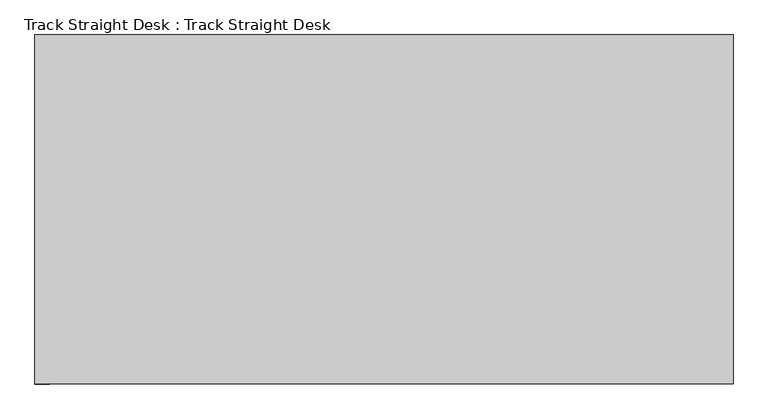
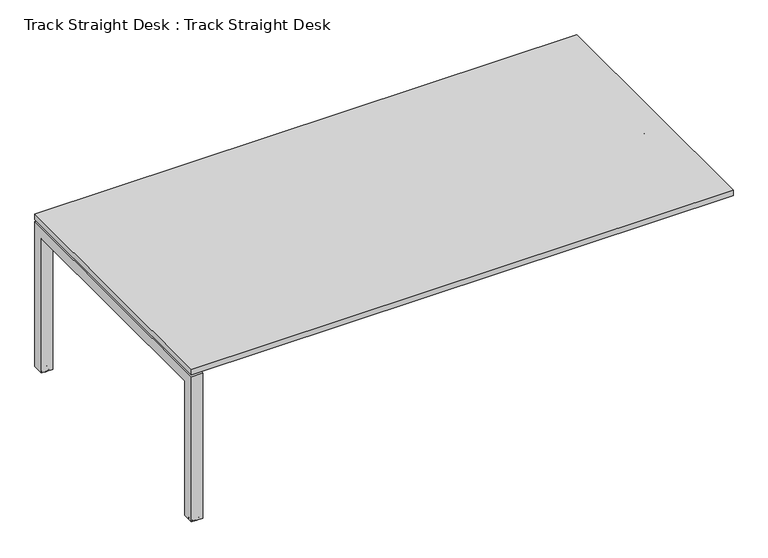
"""IFC4 building model written with IfcOpenShell, lengths in millimetres: furniture geometry, Track Straight Desk : Track Straight Desk."""

from ifc_helpers import new_model, si_unit, point, frame, frame_2d, origin, place, context, project, spatial, polyline, circle_curve, ellipse_curve, trimmed, segment, composite_curve, outline, extrude, source, transform, mapped, element, save
from ifc_brep_helpers import plane_surface, cylinder_surface, revolved_surface, advanced_brep


def track_straight_desk_track_straight_desk_033697cb(model_context):
    return source(origin(), model_context, "Body", "SolidModel", [
        extrude(outline(composite_curve([segment(polyline([(-1167.9824993, 25.0000456), (-1150.0000088, 25.0000456), (-1150.0000088, -24.9999548), (-1167.9714234, -24.9999548)]), True, "CONTINUOUS"), segment(trimmed(circle_curve(frame_2d((-1167.9714234, -22.9713684)), 2.0285864), [point((-1167.9714234, -24.9999548))], [point((-1170.0000098, -22.9713684))], False, "CARTESIAN"), True, "CONTINUOUS"), segment(polyline([(-1170.0000098, -22.9713684), (-1170.0000098, 22.9825351)]), True, "CONTINUOUS"), segment(trimmed(circle_curve(frame_2d((-1167.9824993, 22.9825351)), 2.0175105), [point((-1170.0000098, 22.9825351))], [point((-1167.9824993, 25.0000456))], False, "CARTESIAN"), True, "CONTINUOUS")], self_intersect=False), holes=[composite_curve([segment(trimmed(circle_curve(frame_2d((-1161.5000109, 4.54e-05)), 3.2500196), [point((-1164.7500305, 4.54e-05))], [point((-1158.2499912, 4.54e-05))], True, "CARTESIAN"), True, "CONTINUOUS"), segment(trimmed(circle_curve(frame_2d((-1161.5000109, 4.54e-05)), 3.2500196), [point((-1158.2499912, 4.54e-05))], [point((-1164.7500305, 4.54e-05))], True, "CARTESIAN"), True, "CONTINUOUS")], self_intersect=False)]), frame((0.0, 0.0, 685.4999983), z_axis=(0.0, 0.0, 1.0), x_axis=(1.0, 0.0, 0.0)), (0.0, 0.0, 1.0), 2.4999928),
        extrude(outline(composite_curve([segment(polyline([(687.999991, -1150.0000088), (633.0000051, -1150.0000088), (633.0000051, -1148.0414362)]), True, "CONTINUOUS"), segment(trimmed(circle_curve(frame_2d((633.5414345, -1148.0414362)), 0.5414293), [point((633.0000051, -1148.0414362))], [point((633.5414345, -1147.5000069))], False, "CARTESIAN"), True, "CONTINUOUS"), segment(polyline([(633.5414345, -1147.5000069), (687.499991, -1147.5000069)]), True, "CONTINUOUS"), segment(trimmed(circle_curve(frame_2d((687.499991, -1148.0000069)), 0.5), [point((687.499991, -1147.5000069))], [point((687.999991, -1148.0000069))], False, "CARTESIAN"), True, "CONTINUOUS"), segment(polyline([(687.999991, -1148.0000069), (687.999991, -1150.0000088)]), True, "CONTINUOUS")], self_intersect=False)), frame((0.0, -24.9999548, 0.0), z_axis=(0.0, 1.0, 0.0), x_axis=(0.0, 0.0, 1.0)), (0.0, 0.0, 1.0), 50.0000004),
        extrude(outline(polyline([(645.9999994, -1045.0000043), (692.5000071, -1045.0000043), (692.5000071, -1150.0000088), (687.999991, -1150.0000088), (687.999991, -1147.5000069), (645.9999994, -1147.5000069), (645.9999994, -1045.0000043)]), holes=[composite_curve([segment(trimmed(circle_curve(frame_2d((668.1207902, -1130.0000123)), 2.9999986), [point((668.1207902, -1133.0000108))], [point((668.1207902, -1127.0000137))], True, "CARTESIAN"), True, "CONTINUOUS"), segment(trimmed(circle_curve(frame_2d((668.1207902, -1130.0000123)), 2.9999986), [point((668.1207902, -1127.0000137))], [point((668.1207902, -1133.0000108))], True, "CARTESIAN"), True, "CONTINUOUS")], self_intersect=False), composite_curve([segment(trimmed(circle_curve(frame_2d((668.1207902, -1104.0059247)), 2.9999986), [point((668.1207902, -1107.0059233))], [point((668.1207902, -1101.0059262))], True, "CARTESIAN"), True, "CONTINUOUS"), segment(trimmed(circle_curve(frame_2d((668.1207902, -1104.0059247)), 2.9999986), [point((668.1207902, -1101.0059262))], [point((668.1207902, -1107.0059233))], True, "CARTESIAN"), True, "CONTINUOUS")], self_intersect=False), composite_curve([segment(trimmed(circle_curve(frame_2d((668.1207902, -1078.0118372)), 2.9999986), [point((668.1207902, -1075.0118387))], [point((668.1207902, -1081.0118358))], True, "CARTESIAN"), True, "CONTINUOUS"), segment(trimmed(circle_curve(frame_2d((668.1207902, -1078.0118372)), 2.9999986), [point((668.1207902, -1081.0118358))], [point((668.1207902, -1075.0118387))], True, "CARTESIAN"), True, "CONTINUOUS")], self_intersect=False), composite_curve([segment(trimmed(circle_curve(frame_2d((668.1207902, -1052.0177497)), 2.9999986), [point((668.1207902, -1049.0177511))], [point((668.1207902, -1055.0177483))], True, "CARTESIAN"), True, "CONTINUOUS"), segment(trimmed(circle_curve(frame_2d((668.1207902, -1052.0177497)), 2.9999986), [point((668.1207902, -1055.0177483))], [point((668.1207902, -1049.0177511))], True, "CARTESIAN"), True, "CONTINUOUS")], self_intersect=False)]), frame((0.0, -13.8258548, 0.0), z_axis=(0.0, 1.0, 0.0), x_axis=(0.0, 0.0, 1.0)), (0.0, 0.0, 1.0), 1.2633677),
        advanced_brep(
        [(-1200.0000092, 549.9999769, 5.4999998), (-1200.0000092, 599.9999773, 5.4999998), (-1150.0000088, 599.9999773, 5.4999998), (-1150.0000088, 549.9999769, 5.4999998), (-1198.0000092, 551.9999275, 5.4999998), (-1152.0000093, 551.9999275, 5.4999998), (-1152.0000093, 597.9999541, 5.4999998), (-1198.0000092, 597.9999541, 5.4999998), (-1200.0000092, -549.9999769, 5.4999998), (-1150.0000088, -549.9999769, 5.4999998), (-1150.0000088, -599.9999773, 5.4999998), (-1200.0000092, -599.9999773, 5.4999998), (-1198.0000092, -551.9999275, 5.4999998), (-1198.0000092, -597.9999541, 5.4999998), (-1152.0000093, -597.9999541, 5.4999998), (-1152.0000093, -551.9999275, 5.4999998), (-1200.0000092, 549.9999769, 635.4999996), (-1200.0000092, -549.9999769, 635.4999996), (-1200.0000092, -599.9999773, 685.5), (-1200.0000092, 599.9999773, 685.5), (-1150.0000088, 599.9999773, 685.5), (-1150.0000088, -599.9999773, 685.5), (-1150.0000088, -549.9999769, 635.4999996), (-1150.0000088, 549.9999769, 635.4999996), (-1198.0000092, 551.9999275, 15.4999998), (-1152.0000093, 551.9999275, 15.4999998), (-1198.0000092, 551.9999275, 637.4999502), (-1152.0000093, 551.9999275, 637.4999502), (-1152.0000093, 551.9999275, 18.4999995), (-1198.0000092, 551.9999275, 18.4999995), (-1152.0000093, 597.9999541, 15.4999998), (-1152.0000093, -597.9999541, 15.4999998), (-1152.0000093, -551.9999275, 15.4999998), (-1152.0000093, -551.9999275, 637.4999502), (-1152.0000093, -551.9999275, 18.4999995), (-1152.0000093, -597.9999541, 18.4999995), (-1152.0000093, -597.9999541, 683.4999767), (-1152.0000093, 597.9999541, 683.4999767), (-1152.0000093, 597.9999541, 18.4999995), (-1198.0000092, 597.9999541, 15.4999998), (-1198.0000092, 597.9999541, 683.4999767), (-1198.0000092, 597.9999541, 18.4999995), (-1198.0000092, -551.9999275, 15.4999998), (-1198.0000092, -597.9999541, 15.4999998), (-1198.0000092, -597.9999541, 683.4999767), (-1198.0000092, -597.9999541, 18.4999995), (-1198.0000092, -551.9999275, 18.4999995), (-1198.0000092, -551.9999275, 637.4999502), (-1180.5000094, 574.9999681, 18.4999995), (-1169.5000086, 574.9999681, 18.4999995), (-1180.5000094, 574.9999681, 15.4999998), (-1169.5000086, 574.9999681, 15.4999998), (-1180.5000094, -574.9999681, 18.4999995), (-1169.5000086, -574.9999681, 18.4999995), (-1180.5000094, -574.9999681, 15.4999998), (-1169.5000086, -574.9999681, 15.4999998)],
        [
            (0, 1),
            (1, 2),
            (2, 3),
            (3, 0),
            (4, 5),
            (5, 6),
            (6, 7),
            (7, 4),
            (8, 9),
            (9, 10),
            (10, 11),
            (11, 8),
            (12, 13),
            (13, 14),
            (14, 15),
            (15, 12),
            (0, 16),
            (16, 17),
            (17, 8),
            (11, 18),
            (18, 19),
            (19, 1),
            (19, 20),
            (20, 2),
            (20, 21),
            (21, 10),
            (9, 22),
            (22, 23),
            (23, 3),
            (23, 16),
            (4, 24),
            (24, 25),
            (25, 5),
            (26, 27),
            (27, 28),
            (28, 29),
            (29, 26),
            (25, 30),
            (30, 6),
            (14, 31),
            (31, 32),
            (32, 15),
            (27, 33),
            (33, 34),
            (34, 35),
            (35, 36),
            (36, 37),
            (37, 38),
            (38, 28),
            (30, 39),
            (39, 7),
            (37, 40),
            (40, 41),
            (41, 38),
            (39, 24),
            (12, 42),
            (42, 43),
            (43, 13),
            (40, 44),
            (44, 45),
            (45, 46),
            (46, 47),
            (47, 26),
            (29, 41),
            (18, 21),
            (22, 17),
            (47, 33),
            (36, 44),
            (32, 42),
            (46, 34),
            (43, 31),
            (35, 45),
            (48, 49, circle_curve(frame((-1175.000009, 574.9999681, 18.4999995), z_axis=(0.0, 0.0, -1.0), x_axis=(1.0, 0.0, 0.0)), 5.5000004)),
            (49, 48, circle_curve(frame((-1175.000009, 574.9999681, 18.4999995), z_axis=(0.0, 0.0, -1.0), x_axis=(1.0, 0.0, 0.0)), 5.5000004)),
            (50, 51, circle_curve(frame((-1175.000009, 574.9999681, 15.4999998), z_axis=(0.0, 0.0, 1.0), x_axis=(1.0, 0.0, 0.0)), 5.5000004)),
            (51, 50, circle_curve(frame((-1175.000009, 574.9999681, 15.4999998), z_axis=(0.0, 0.0, 1.0), x_axis=(1.0, 0.0, 0.0)), 5.5000004)),
            (49, 51),
            (50, 48),
            (52, 53, circle_curve(frame((-1175.000009, -574.9999681, 18.4999995), z_axis=(0.0, 0.0, -1.0), x_axis=(1.0, 0.0, 0.0)), 5.5000004)),
            (53, 52, circle_curve(frame((-1175.000009, -574.9999681, 18.4999995), z_axis=(0.0, 0.0, -1.0), x_axis=(1.0, 0.0, 0.0)), 5.5000004)),
            (54, 55, circle_curve(frame((-1175.000009, -574.9999681, 15.4999998), z_axis=(0.0, 0.0, 1.0), x_axis=(1.0, 0.0, 0.0)), 5.5000004)),
            (55, 54, circle_curve(frame((-1175.000009, -574.9999681, 15.4999998), z_axis=(0.0, 0.0, 1.0), x_axis=(1.0, 0.0, 0.0)), 5.5000004)),
            (52, 54),
            (55, 53),
        ],
        [
            plane_surface(frame((-1175.000009, 599.9999773, 5.4999998), z_axis=(0.0, 0.0, -1.0), x_axis=(1.0, 0.0, 0.0))),
            plane_surface(frame((-1175.000009, -599.9999773, 5.4999998), z_axis=(0.0, 0.0, -1.0), x_axis=(1.0, 0.0, 0.0))),
            plane_surface(frame((-1200.0000092, 549.9999769, 5.4999998), z_axis=(-1.0, 0.0, 0.0), x_axis=(0.0, 0.0, 1.0))),
            plane_surface(frame((-1200.0000092, 599.9999773, 5.4999998), z_axis=(0.0, 1.0, 0.0), x_axis=(0.0, 0.0, 1.0))),
            plane_surface(frame((-1150.0000088, 599.9999773, 5.4999998), z_axis=(1.0, 0.0, 0.0), x_axis=(0.0, 0.0, 1.0))),
            plane_surface(frame((-1150.0000088, 549.9999769, 5.4999998), z_axis=(0.0, -1.0, 0.0), x_axis=(0.0, 0.0, 1.0))),
            plane_surface(frame((-1198.0000092, 551.9999275, 5.4999998), z_axis=(0.0, 1.0, 0.0), x_axis=(0.0, 0.0, 1.0))),
            plane_surface(frame((-1152.0000093, 551.9999275, 5.4999998), z_axis=(-1.0, 0.0, 0.0), x_axis=(0.0, 0.0, 1.0))),
            plane_surface(frame((-1152.0000093, 597.9999541, 5.4999998), z_axis=(0.0, -1.0, 0.0), x_axis=(0.0, 0.0, 1.0))),
            plane_surface(frame((-1198.0000092, 597.9999541, 5.4999998), z_axis=(1.0, 0.0, 0.0), x_axis=(0.0, 0.0, 1.0))),
            plane_surface(frame((-1200.0000092, 599.9999773, 685.5), z_axis=(0.0, 0.0, 1.0), x_axis=(0.0, -1.0, 0.0))),
            plane_surface(frame((-1150.0000088, 549.9999769, 635.4999996), z_axis=(0.0, 0.0, -1.0), x_axis=(0.0, -1.0, 0.0))),
            plane_surface(frame((-1198.0000092, 551.9999275, 637.4999502), z_axis=(0.0, 0.0, 1.0), x_axis=(0.0, -1.0, 0.0))),
            plane_surface(frame((-1152.0000093, 597.9999541, 683.4999767), z_axis=(0.0, 0.0, -1.0), x_axis=(0.0, -1.0, 0.0))),
            plane_surface(frame((-1200.0000092, -599.9999773, 685.5), z_axis=(0.0, -1.0, 0.0), x_axis=(0.0, 0.0, -1.0))),
            plane_surface(frame((-1150.0000088, -549.9999769, 635.4999996), z_axis=(0.0, 1.0, 0.0), x_axis=(0.0, 0.0, -1.0))),
            plane_surface(frame((-1198.0000092, -551.9999275, 637.4999502), z_axis=(0.0, -1.0, 0.0), x_axis=(0.0, 0.0, -1.0))),
            plane_surface(frame((-1152.0000093, -597.9999541, 683.4999767), z_axis=(0.0, 1.0, 0.0), x_axis=(0.0, 0.0, -1.0))),
            plane_surface(frame((-1152.0000093, 551.9999275, 18.4999995), z_axis=(0.0, 0.0, 1.0), x_axis=(0.0, 1.0, 0.0))),
            plane_surface(frame((-1152.0000093, 551.9999275, 15.4999998), z_axis=(0.0, 0.0, -1.0), x_axis=(0.0, -1.0, 0.0))),
            revolved_surface(polyline([(-1169.5000086, 574.9999681, 15.4999998), (-1169.5000086, 574.9999681, 18.4999995)]), (-1175.000009, 574.9999681, 0.0), (0.0, 0.0, -1.0)),
            plane_surface(frame((-1198.0000092, -551.9999275, 18.4999995), z_axis=(0.0, 0.0, 1.0), x_axis=(-1.0, 0.0, 0.0))),
            plane_surface(frame((-1198.0000092, -551.9999275, 15.4999998), z_axis=(0.0, 0.0, -1.0), x_axis=(1.0, 0.0, 0.0))),
            revolved_surface(polyline([(-1169.5000086, -574.9999681, 15.4999998), (-1169.5000086, -574.9999681, 18.4999995)]), (-1175.000009, -574.9999681, 0.0), (0.0, 0.0, -1.0)),
        ],
        [
            (0, [[1, 2, 3, 4], [5, 6, 7, 8]]),
            (1, [[9, 10, 11, 12], [13, 14, 15, 16]]),
            (2, [[-1, 17, 18, 19, -12, 20, 21, 22]]),
            (3, [[-2, -22, 23, 24]]),
            (4, [[-3, -24, 25, 26, -10, 27, 28, 29]]),
            (5, [[-4, -29, 30, -17]]),
            (6, [[-5, 31, 32, 33]]),
            (6, [[34, 35, 36, 37]]),
            (7, [[-6, -33, 38, 39]]),
            (7, [[-15, 40, 41, 42]]),
            (7, [[43, 44, 45, 46, 47, 48, 49, -35]]),
            (8, [[-7, -39, 50, 51]]),
            (8, [[52, 53, 54, -48]]),
            (9, [[-8, -51, 55, -31]]),
            (9, [[-13, 56, 57, 58]]),
            (9, [[59, 60, 61, 62, 63, -37, 64, -53]]),
            (10, [[-21, 65, -25, -23]]),
            (11, [[-18, -30, -28, 66]]),
            (12, [[-34, -63, 67, -43]]),
            (13, [[-47, 68, -59, -52]]),
            (14, [[-11, -26, -65, -20]]),
            (15, [[-9, -19, -66, -27]]),
            (16, [[-16, -42, 69, -56]]),
            (16, [[-67, -62, 70, -44]]),
            (17, [[-14, -58, 71, -40]]),
            (17, [[-68, -46, 72, -60]]),
            (18, [[-36, -49, -54, -64], [73, 74]]),
            (19, [[-32, -55, -50, -38], [75, 76]]),
            (20, [[-74, 77, -75, 78]]),
            (20, [[-73, -78, -76, -77]]),
            (21, [[-45, -70, -61, -72], [79, 80]]),
            (22, [[-41, -71, -57, -69], [81, 82]]),
            (23, [[-79, 83, -82, 84]]),
            (23, [[-80, -84, -81, -83]]),
        ],
    ),
        advanced_brep(
        [(-1175.0000101, 578.999968, 70.0000014), (-1175.0000101, 570.9999681, 70.0000014), (-1175.0000101, 570.9999681, 10.0000005), (-1175.0000101, 578.999968, 10.0000005), (-1175.0000101, 564.0358832, 10.0000005), (-1175.0000101, 585.9640529, 10.0000005), (-1175.0000101, 564.0358832, 6.0), (-1175.0000101, 585.9640529, 6.0), (-1175.0000101, 556.9539621, 6.0), (-1175.0000101, 593.045974, 6.0), (-1175.0000101, 554.9999693, 4.0460071), (-1175.0000101, 594.9999668, 4.0460071), (-1175.0000101, 554.9999693, 2.0), (-1175.0000101, 594.9999668, 2.0), (-1175.0000101, 556.9999693, 0.0), (-1175.0000101, 592.9999668, 0.0), (-1175.0000101, 574.9999681, 0.0), (-1175.0000101, 574.9999681, 70.0000014)],
        [
            (0, 1, circle_curve(frame((-1175.0000101, 574.9999681, 70.0000014), z_axis=(0.0, 0.0, -1.0), x_axis=(0.0, -1.0, 0.0)), 4.0)),
            (1, 2),
            (2, 3, circle_curve(frame((-1175.0000101, 574.9999681, 10.0000005), z_axis=(0.0, 0.0, 1.0), x_axis=(0.0, -1.0, 0.0)), 4.0)),
            (3, 0),
            (1, 0, circle_curve(frame((-1175.0000101, 574.9999681, 70.0000014), z_axis=(0.0, 0.0, -1.0), x_axis=(0.0, -1.0, 0.0)), 4.0)),
            (3, 2, circle_curve(frame((-1175.0000101, 574.9999681, 10.0000005), z_axis=(0.0, 0.0, 1.0), x_axis=(0.0, -1.0, 0.0)), 4.0)),
            (2, 4),
            (4, 5, circle_curve(frame((-1175.0000101, 574.9999681, 10.0000005), z_axis=(0.0, 0.0, 1.0), x_axis=(0.0, -1.0, 0.0)), 10.9640848)),
            (5, 3),
            (5, 4, circle_curve(frame((-1175.0000101, 574.9999681, 10.0000005), z_axis=(0.0, 0.0, 1.0), x_axis=(0.0, -1.0, 0.0)), 10.9640848)),
            (4, 6),
            (6, 7, circle_curve(frame((-1175.0000101, 574.9999681, 6.0), z_axis=(0.0, 0.0, 1.0), x_axis=(0.0, -1.0, 0.0)), 10.9640848)),
            (7, 5),
            (7, 6, circle_curve(frame((-1175.0000101, 574.9999681, 6.0), z_axis=(0.0, 0.0, 1.0), x_axis=(0.0, -1.0, 0.0)), 10.9640848)),
            (6, 8),
            (8, 9, circle_curve(frame((-1175.0000101, 574.9999681, 6.0), z_axis=(0.0, 0.0, 1.0), x_axis=(0.0, -1.0, 0.0)), 18.0460059)),
            (9, 7),
            (9, 8, circle_curve(frame((-1175.0000101, 574.9999681, 6.0), z_axis=(0.0, 0.0, 1.0), x_axis=(0.0, -1.0, 0.0)), 18.0460059)),
            (8, 10, circle_curve(frame((-1175.0000101, 556.9539621, 4.0460071), z_axis=(1.0, 0.0, 0.0), x_axis=(0.0, 1.0, 0.0)), 1.9539929)),
            (10, 11, circle_curve(frame((-1175.0000101, 574.9999681, 4.0460071), z_axis=(0.0, 0.0, 1.0), x_axis=(0.0, -1.0, 0.0)), 19.9999988)),
            (11, 9, circle_curve(frame((-1175.0000101, 593.045974, 4.0460071), z_axis=(1.0, 0.0, 0.0), x_axis=(0.0, -1.0, 0.0)), 1.9539929)),
            (11, 10, circle_curve(frame((-1175.0000101, 574.9999681, 4.0460071), z_axis=(0.0, 0.0, 1.0), x_axis=(0.0, -1.0, 0.0)), 19.9999988)),
            (10, 12),
            (12, 13, circle_curve(frame((-1175.0000101, 574.9999681, 2.0), z_axis=(0.0, 0.0, 1.0), x_axis=(0.0, -1.0, 0.0)), 19.9999988)),
            (13, 11),
            (13, 12, circle_curve(frame((-1175.0000101, 574.9999681, 2.0), z_axis=(0.0, 0.0, 1.0), x_axis=(0.0, -1.0, 0.0)), 19.9999988)),
            (12, 14, circle_curve(frame((-1175.0000101, 556.9999693, 2.0), z_axis=(1.0, 0.0, 0.0), x_axis=(0.0, 1.0, 0.0)), 2.0)),
            (14, 15, circle_curve(frame((-1175.0000101, 574.9999681, 0.0), z_axis=(0.0, 0.0, 1.0), x_axis=(0.0, -1.0, 0.0)), 17.9999988)),
            (15, 13, circle_curve(frame((-1175.0000101, 592.9999668, 2.0), z_axis=(1.0, 0.0, 0.0), x_axis=(0.0, -1.0, 0.0)), 2.0)),
            (15, 14, circle_curve(frame((-1175.0000101, 574.9999681, 0.0), z_axis=(0.0, 0.0, 1.0), x_axis=(0.0, -1.0, 0.0)), 17.9999988)),
            (14, 16),
            (16, 15),
            (17, 1),
            (0, 17),
        ],
        [
            cylinder_surface(frame((-1175.0000101, 574.9999681, 70.0000014), z_axis=(0.0, 0.0, 1.0), x_axis=(0.0, -1.0, 0.0)), 4.0),
            plane_surface(frame((-1175.0000101, 574.9999681, 10.0000005), z_axis=(0.0, 0.0, 1.0), x_axis=(0.0, -1.0, 0.0))),
            cylinder_surface(frame((-1175.0000101, 574.9999681, 70.0000014), z_axis=(0.0, 0.0, 1.0), x_axis=(0.0, -1.0, 0.0)), 10.9640848),
            plane_surface(frame((-1175.0000101, 574.9999681, 6.0), z_axis=(0.0, 0.0, 1.0), x_axis=(0.0, -1.0, 0.0))),
            revolved_surface(trimmed(ellipse_curve(frame((-1175.0000101, 556.9539621, 4.0460071), z_axis=(-1.0, 0.0, 0.0), x_axis=(0.0, 1.0, 0.0)), 1.9539929, 1.9539929), [point((-1175.0000101, 554.9999693, 4.0460071))], [point((-1175.0000101, 556.9539621, 6.0))], True, "CARTESIAN"), (-1175.0000101, 574.9999681, 70.0000014), (0.0, 0.0, 1.0)),
            cylinder_surface(frame((-1175.0000101, 574.9999681, 70.0000014), z_axis=(0.0, 0.0, 1.0), x_axis=(0.0, -1.0, 0.0)), 19.9999988),
            revolved_surface(trimmed(ellipse_curve(frame((-1175.0000101, 556.9999693, 2.0), z_axis=(-1.0, 0.0, 0.0), x_axis=(0.0, 1.0, 0.0)), 2.0, 2.0), [point((-1175.0000101, 556.9999693, 0.0))], [point((-1175.0000101, 554.9999693, 2.0))], True, "CARTESIAN"), (-1175.0000101, 574.9999681, 70.0000014), (0.0, 0.0, 1.0)),
            plane_surface(frame((-1175.0000101, 574.9999681, 0.0), z_axis=(0.0, 0.0, -1.0), x_axis=(0.0, -1.0, 0.0))),
            plane_surface(frame((-1175.0000101, 574.9999681, 70.0000014), z_axis=(0.0, 0.0, 1.0), x_axis=(0.0, -1.0, 0.0))),
        ],
        [
            (0, [[1, 2, 3, 4]]),
            (0, [[5, -4, 6, -2]]),
            (1, [[-3, 7, 8, 9]]),
            (1, [[-6, -9, 10, -7]]),
            (2, [[-8, 11, 12, 13]]),
            (2, [[-10, -13, 14, -11]]),
            (3, [[-12, 15, 16, 17]]),
            (3, [[-14, -17, 18, -15]]),
            (4, [[-16, 19, 20, 21]]),
            (4, [[-18, -21, 22, -19]]),
            (5, [[-20, 23, 24, 25]]),
            (5, [[-22, -25, 26, -23]]),
            (6, [[-24, 27, 28, 29]]),
            (6, [[-26, -29, 30, -27]]),
            (7, [[-28, 31, 32]]),
            (7, [[-30, -32, -31]]),
            (8, [[33, -1, 34]]),
            (8, [[-34, -5, -33]]),
        ],
    ),
        advanced_brep(
        [(-1175.0000101, -578.999968, 10.0000005), (-1175.0000101, -570.9999681, 10.0000005), (-1175.0000101, -570.9999681, 70.0000014), (-1175.0000101, -578.999968, 70.0000014), (-1175.0000101, -585.9640529, 10.0000005), (-1175.0000101, -564.0358832, 10.0000005), (-1175.0000101, -585.9640529, 6.0), (-1175.0000101, -564.0358832, 6.0), (-1175.0000101, -593.045974, 6.0), (-1175.0000101, -556.9539621, 6.0), (-1175.0000101, -594.9999668, 4.0460071), (-1175.0000101, -554.9999693, 4.0460071), (-1175.0000101, -594.9999668, 2.0), (-1175.0000101, -554.9999693, 2.0), (-1175.0000101, -592.9999668, 0.0), (-1175.0000101, -556.9999693, 0.0), (-1175.0000101, -574.9999681, 0.0), (-1175.0000101, -574.9999681, 70.0000014)],
        [
            (0, 1, circle_curve(frame((-1175.0000101, -574.9999681, 10.0000005), z_axis=(0.0, 0.0, 1.0), x_axis=(0.0, 1.0, 0.0)), 4.0)),
            (1, 2),
            (2, 3, circle_curve(frame((-1175.0000101, -574.9999681, 70.0000014), z_axis=(0.0, 0.0, -1.0), x_axis=(0.0, 1.0, 0.0)), 4.0)),
            (3, 0),
            (1, 0, circle_curve(frame((-1175.0000101, -574.9999681, 10.0000005), z_axis=(0.0, 0.0, 1.0), x_axis=(0.0, 1.0, 0.0)), 4.0)),
            (3, 2, circle_curve(frame((-1175.0000101, -574.9999681, 70.0000014), z_axis=(0.0, 0.0, -1.0), x_axis=(0.0, 1.0, 0.0)), 4.0)),
            (4, 5, circle_curve(frame((-1175.0000101, -574.9999681, 10.0000005), z_axis=(0.0, 0.0, 1.0), x_axis=(0.0, 1.0, 0.0)), 10.9640848)),
            (5, 1),
            (0, 4),
            (5, 4, circle_curve(frame((-1175.0000101, -574.9999681, 10.0000005), z_axis=(0.0, 0.0, 1.0), x_axis=(0.0, 1.0, 0.0)), 10.9640848)),
            (6, 7, circle_curve(frame((-1175.0000101, -574.9999681, 6.0), z_axis=(0.0, 0.0, 1.0), x_axis=(0.0, 1.0, 0.0)), 10.9640848)),
            (7, 5),
            (4, 6),
            (7, 6, circle_curve(frame((-1175.0000101, -574.9999681, 6.0), z_axis=(0.0, 0.0, 1.0), x_axis=(0.0, 1.0, 0.0)), 10.9640848)),
            (8, 9, circle_curve(frame((-1175.0000101, -574.9999681, 6.0), z_axis=(0.0, 0.0, 1.0), x_axis=(0.0, 1.0, 0.0)), 18.0460059)),
            (9, 7),
            (6, 8),
            (9, 8, circle_curve(frame((-1175.0000101, -574.9999681, 6.0), z_axis=(0.0, 0.0, 1.0), x_axis=(0.0, 1.0, 0.0)), 18.0460059)),
            (10, 11, circle_curve(frame((-1175.0000101, -574.9999681, 4.0460071), z_axis=(0.0, 0.0, 1.0), x_axis=(0.0, 1.0, 0.0)), 19.9999988)),
            (11, 9, circle_curve(frame((-1175.0000101, -556.9539621, 4.0460071), z_axis=(1.0, 0.0, 0.0), x_axis=(0.0, -1.0, 0.0)), 1.9539929)),
            (8, 10, circle_curve(frame((-1175.0000101, -593.045974, 4.0460071), z_axis=(1.0, 0.0, 0.0), x_axis=(0.0, 1.0, 0.0)), 1.9539929)),
            (11, 10, circle_curve(frame((-1175.0000101, -574.9999681, 4.0460071), z_axis=(0.0, 0.0, 1.0), x_axis=(0.0, 1.0, 0.0)), 19.9999988)),
            (12, 13, circle_curve(frame((-1175.0000101, -574.9999681, 2.0), z_axis=(0.0, 0.0, 1.0), x_axis=(0.0, 1.0, 0.0)), 19.9999988)),
            (13, 11),
            (10, 12),
            (13, 12, circle_curve(frame((-1175.0000101, -574.9999681, 2.0), z_axis=(0.0, 0.0, 1.0), x_axis=(0.0, 1.0, 0.0)), 19.9999988)),
            (14, 15, circle_curve(frame((-1175.0000101, -574.9999681, 0.0), z_axis=(0.0, 0.0, 1.0), x_axis=(0.0, 1.0, 0.0)), 17.9999988)),
            (15, 13, circle_curve(frame((-1175.0000101, -556.9999693, 2.0), z_axis=(1.0, 0.0, 0.0), x_axis=(0.0, -1.0, 0.0)), 2.0)),
            (12, 14, circle_curve(frame((-1175.0000101, -592.9999668, 2.0), z_axis=(1.0, 0.0, 0.0), x_axis=(0.0, 1.0, 0.0)), 2.0)),
            (15, 14, circle_curve(frame((-1175.0000101, -574.9999681, 0.0), z_axis=(0.0, 0.0, 1.0), x_axis=(0.0, 1.0, 0.0)), 17.9999988)),
            (16, 15),
            (14, 16),
            (2, 17),
            (17, 3),
        ],
        [
            cylinder_surface(frame((-1175.0000101, -574.9999681, 70.0000014), z_axis=(0.0, 0.0, -1.0), x_axis=(0.0, 1.0, 0.0)), 4.0),
            plane_surface(frame((-1175.0000101, -574.9999681, 10.0000005), z_axis=(0.0, 0.0, 1.0), x_axis=(0.0, 1.0, 0.0))),
            cylinder_surface(frame((-1175.0000101, -574.9999681, 70.0000014), z_axis=(0.0, 0.0, -1.0), x_axis=(0.0, 1.0, 0.0)), 10.9640848),
            plane_surface(frame((-1175.0000101, -574.9999681, 6.0), z_axis=(0.0, 0.0, 1.0), x_axis=(0.0, 1.0, 0.0))),
            revolved_surface(trimmed(ellipse_curve(frame((-1175.0000101, -556.9539621, 4.0460071), z_axis=(-1.0, 0.0, 0.0), x_axis=(0.0, -1.0, 0.0)), 1.9539929, 1.9539929), [point((-1175.0000101, -556.9539621, 6.0))], [point((-1175.0000101, -554.9999693, 4.0460071))], True, "CARTESIAN"), (-1175.0000101, -574.9999681, 70.0000014), (0.0, 0.0, -1.0)),
            cylinder_surface(frame((-1175.0000101, -574.9999681, 70.0000014), z_axis=(0.0, 0.0, -1.0), x_axis=(0.0, 1.0, 0.0)), 19.9999988),
            revolved_surface(trimmed(ellipse_curve(frame((-1175.0000101, -556.9999693, 2.0), z_axis=(-1.0, 0.0, 0.0), x_axis=(0.0, -1.0, 0.0)), 2.0, 2.0), [point((-1175.0000101, -554.9999693, 2.0))], [point((-1175.0000101, -556.9999693, 0.0))], True, "CARTESIAN"), (-1175.0000101, -574.9999681, 70.0000014), (0.0, 0.0, -1.0)),
            plane_surface(frame((-1175.0000101, -574.9999681, 0.0), z_axis=(0.0, 0.0, -1.0), x_axis=(0.0, 1.0, 0.0))),
            plane_surface(frame((-1175.0000101, -574.9999681, 70.0000014), z_axis=(0.0, 0.0, 1.0), x_axis=(0.0, 1.0, 0.0))),
        ],
        [
            (0, [[1, 2, 3, 4]]),
            (0, [[5, -4, 6, -2]]),
            (1, [[7, 8, -1, 9]]),
            (1, [[10, -9, -5, -8]]),
            (2, [[11, 12, -7, 13]]),
            (2, [[14, -13, -10, -12]]),
            (3, [[15, 16, -11, 17]]),
            (3, [[18, -17, -14, -16]]),
            (4, [[19, 20, -15, 21]]),
            (4, [[22, -21, -18, -20]]),
            (5, [[23, 24, -19, 25]]),
            (5, [[26, -25, -22, -24]]),
            (6, [[27, 28, -23, 29]]),
            (6, [[30, -29, -26, -28]]),
            (7, [[31, -27, 32]]),
            (7, [[-32, -30, -31]]),
            (8, [[-3, 33, 34]]),
            (8, [[-6, -34, -33]]),
        ],
    ),
        extrude(outline(composite_curve([segment(polyline([(-10.4874193, 694.9999998), (10.4874193, 694.9999998)]), True, "CONTINUOUS"), segment(trimmed(circle_curve(frame_2d((10.4874193, 692.9749109)), 2.0250889), [point((10.4874193, 694.9999998))], [point((12.5125082, 692.9749109))], False, "CARTESIAN"), True, "CONTINUOUS"), segment(polyline([(12.5125082, 692.9749109), (12.5125082, 646.9999994)]), True, "CONTINUOUS"), segment(trimmed(circle_curve(frame_2d((10.5125082, 646.9999994)), 2.0), [point((12.5125082, 646.9999994))], [point((10.5125082, 644.9999994))], False, "CARTESIAN"), True, "CONTINUOUS"), segment(polyline([(10.5125082, 644.9999994), (-10.4874193, 644.9999994)]), True, "CONTINUOUS"), segment(trimmed(circle_curve(frame_2d((-10.4874193, 646.9999994)), 2.0), [point((-10.4874193, 644.9999994))], [point((-12.4874193, 646.9999994))], False, "CARTESIAN"), True, "CONTINUOUS"), segment(polyline([(-12.4874193, 646.9999994), (-12.4874193, 692.9999998)]), True, "CONTINUOUS"), segment(trimmed(circle_curve(frame_2d((-10.4874193, 692.9999998)), 2.0), [point((-12.4874193, 692.9999998))], [point((-10.4874193, 694.9999998))], False, "CARTESIAN"), True, "CONTINUOUS")], self_intersect=False), holes=[polyline([(-10.4875414, 646.99995), (10.5126303, 646.99995), (10.5126303, 692.9999765), (-10.4875414, 692.9999765), (-10.4875414, 646.99995)])]), frame((-1150.0000088, 0.0, 0.0), z_axis=(1.0, 0.0, 0.0), x_axis=(0.0, 1.0, 0.0)), (0.0, 0.0, 1.0), 2300.0000175),
        extrude(outline(polyline([(-1200.0000092, 599.9999773), (1200.0000092, 599.9999773), (1200.0000092, -599.9999773), (-1200.0000092, -599.9999773), (-1200.0000092, 599.9999773)])), frame((0.0, 0.0, 694.9999998), z_axis=(0.0, 0.0, 1.0), x_axis=(1.0, 0.0, 0.0)), (0.0, 0.0, 1.0), 25.0000002),
    ])


if __name__ == "__main__":
    model = new_model("IFC4")
    model_context = context("Model", 3, world=origin())
    ifc_project = project(units=[si_unit("LENGTHUNIT", "METRE", prefix="MILLI")], contexts=[model_context])
    site = spatial("IfcSite", under=ifc_project)
    building = spatial("IfcBuilding", under=site)
    placement = place(None, origin())
    track_straight_desk_track_straight_desk_shape = track_straight_desk_track_straight_desk_033697cb(model_context)
    element("IfcFurniture", 1, ObjectType="Track Straight Desk : Track Straight Desk", at=placement, inside=building, context=model_context, shape_type="MappedRepresentation", body=[
        mapped(track_straight_desk_track_straight_desk_shape, transform((0.0, 0.0, 0.0), x_axis=(1.0, 0.0, 0.0), y_axis=(0.0, 1.0, 0.0), z_axis=(0.0, 0.0, 1.0))),
    ])
    save(model, "model.ifc")
